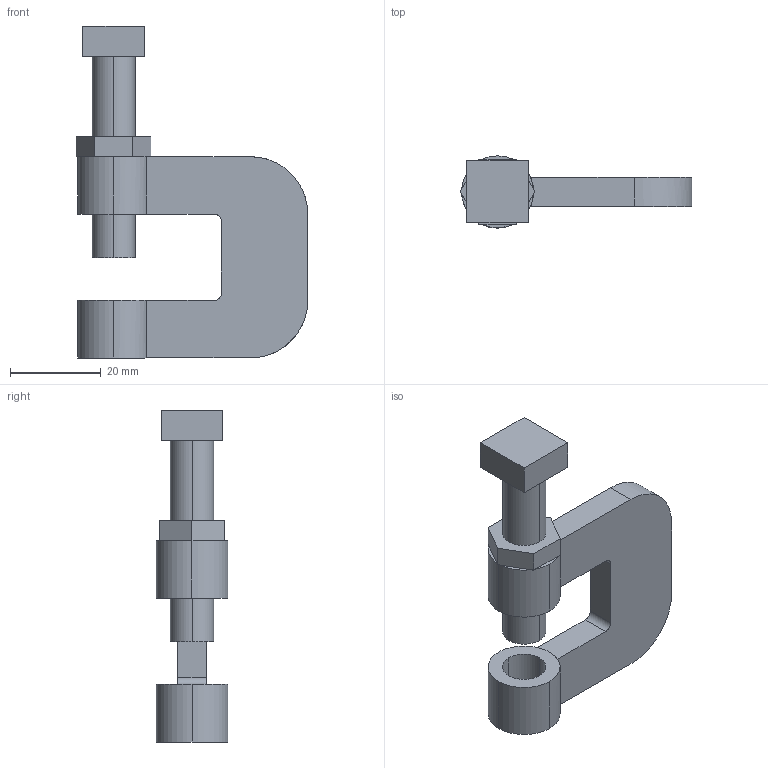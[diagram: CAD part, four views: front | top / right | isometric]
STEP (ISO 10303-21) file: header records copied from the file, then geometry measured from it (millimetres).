
FILE_DESCRIPTION(('TurboCAD Mac Pro'),'Build 980');
FILE_NAME('P2896-37.stp',' ',(''),(''),'ACIS Interop','IMSI','TurboCAD Mac Pro BY IMSI, INCORPORATED');
FILE_SCHEMA(('automotive_design'));
Length unit declared in the file: inch
Products named in the file (3): 1; 2; 3
Bounding box: 51.11 x 15.88 x 73.29 mm (x, y, z)
Volume: 15597.9 mm3; surface area: 8372.7 mm2
Topology: 3 solids, 3 shells, 53 faces, 138 edges, 92 vertices
Faces by surface type: bspline 28, plane 25
Entity records: 2278 total; most frequent: CARTESIAN_POINT 670, ORIENTED_EDGE 276, EDGE_CURVE 138, DIRECTION 134, VERTEX_POINT 92, LINE 78, VECTOR 78, EDGE_LOOP 60
